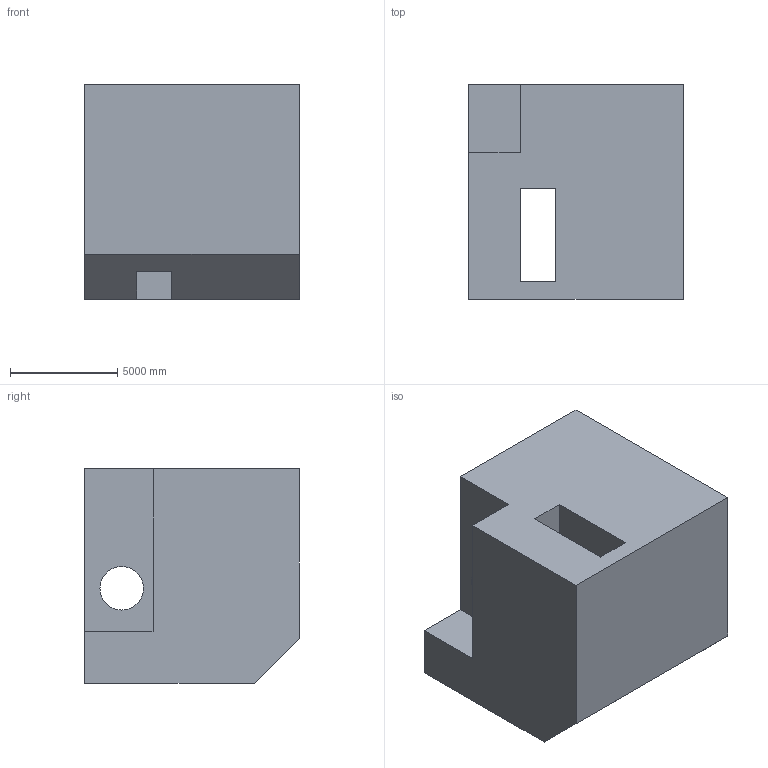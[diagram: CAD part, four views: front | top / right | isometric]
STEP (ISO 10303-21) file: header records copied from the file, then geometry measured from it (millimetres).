
FILE_DESCRIPTION (( 'STEP AP203' ), '1' );
FILE_NAME ('348.STEP', '2022-07-28T14:26:09', ( 'user' ), ( '' ), 'SwSTEP 2.0', 'SolidWorks 2021', '' );
FILE_SCHEMA (( 'CONFIG_CONTROL_DESIGN' ));
Length unit declared in the file: centimetre
Products named in the file (1): 348
Bounding box: 10000 x 10000 x 10000 mm (x, y, z)
Volume: 825653671265.6 mm3; surface area: 726064078.7 mm2
Topology: 1 solids, 1 shells, 16 faces, 45 edges, 30 vertices
Faces by surface type: plane 14, cylinder 2
Entity records: 598 total; most frequent: CARTESIAN_POINT 92, ORIENTED_EDGE 90, DIRECTION 83, EDGE_CURVE 45, VECTOR 41, LINE 41, VERTEX_POINT 30, AXIS2_PLACEMENT_3D 21
